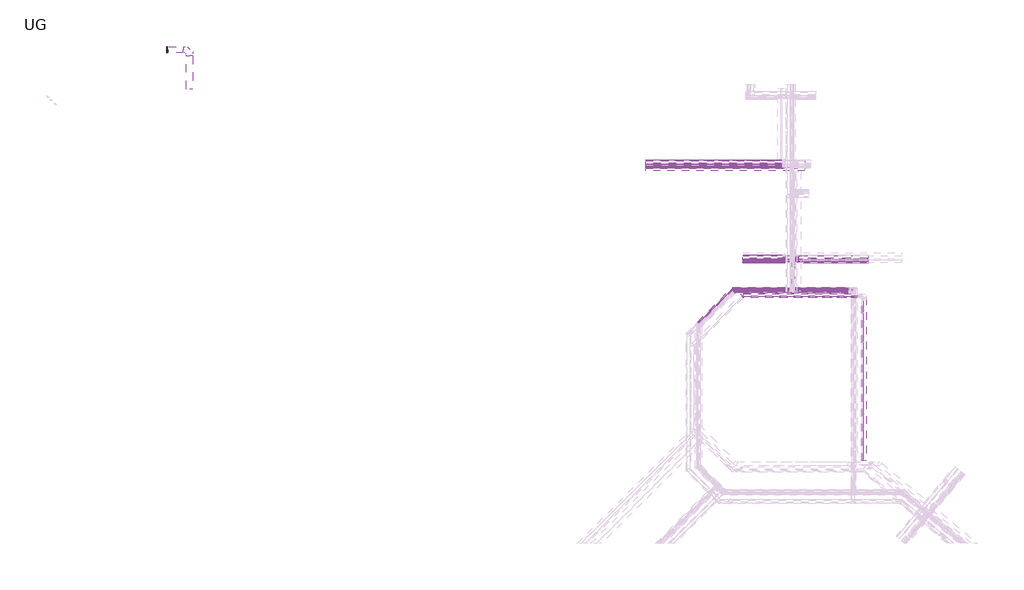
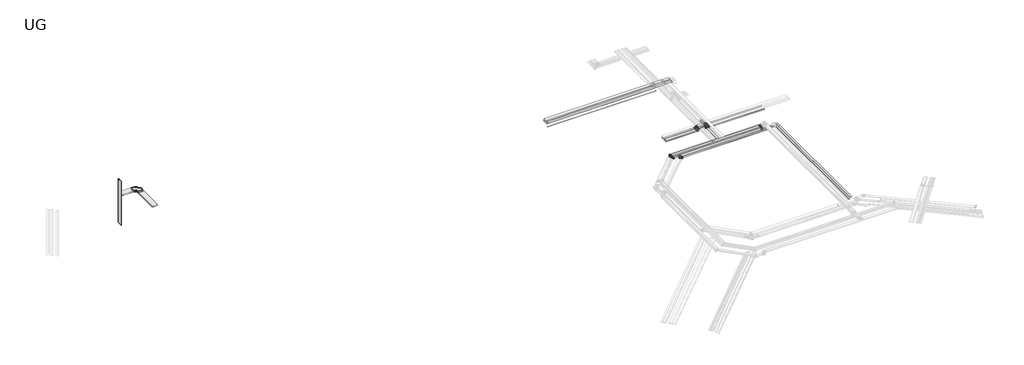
# One storey, part 4 of 14: 66 cable carrier segments, 42 cable carrier fittings.
"""IFC4 building model written with IfcOpenShell, lengths in millimetres."""

from ifc_helpers import new_model, si_unit, frame, origin, place, context, project, spatial, polyline, outline, extrude, transform, mapped, element, save
from components import cable_tray_horizontal_bend_a37de1d9, cable_tray_horizontal_bend_59db2054, cable_tray_horizontal_bend_460281a5, cable_tray_horizontal_bend_41a28480, cable_tray_horizontal_bend_607c76ad, cable_tray_horizontal_bend_b3b03265, cable_tray_horizontal_bend_0aeb7664, cable_tray_vertical_inside_bend_327bc21f, cable_tray_vertical_inside_bend_96cfe16a, cable_tray_vertical_inside_bend_7e2063ad, cable_tray_vertical_outside_bend_a3d3d836, cable_tray_vertical_outside_bend_dc64f624, cable_tray_vertical_outside_bend_fceaed45, cable_tray_vertical_outside_bend_b6a104fe

model = new_model("IFC4")

# Units and contexts
model_context = context("Model", 3, world=origin())
ifc_project = project(units=[si_unit("LENGTHUNIT", "METRE", prefix="MILLI")], contexts=[model_context])

# Site, building, storey
site = spatial("IfcSite", under=ifc_project)
building = spatial("IfcBuilding", under=site)
storey = spatial("IfcBuildingStorey", under=building, Name="UG", Elevation=7925.0)

# Cable carrier fittings
placement = place(None, origin())
cable_tray_horizontal_bend_shape = cable_tray_horizontal_bend_a37de1d9(model_context)
element("IfcCableCarrierFitting", 1, ObjectType="Cable Tray Horizontal Bend : ELEC_ELV_TKG_N2402", at=placement, inside=storey, context=model_context, shape_type="MappedRepresentation", body=[
    mapped(cable_tray_horizontal_bend_shape, transform((93310.9290027, 66340.1193644, 12725.0), x_axis=(-1.0, 0.0, 0.0), y_axis=(0.0, -1.0, 0.0), z_axis=(0.0, 0.0, 1.0))),
])
element("IfcCableCarrierFitting", 2, ObjectType="Cable Tray Horizontal Bend : ELEC_ELV_TKG_N2402", at=placement, inside=storey, context=model_context, shape_type="MappedRepresentation", body=[
    mapped(cable_tray_horizontal_bend_shape, transform((93248.7969637, 66490.1193598, 12449.9999995), x_axis=(-1.0, 0.0, 0.0), y_axis=(0.0, -1.0, 0.0), z_axis=(0.0, 0.0, 1.0))),
])
element("IfcCableCarrierFitting", 3, ObjectType="Cable Tray Horizontal Bend : ELEC_ELV_TKG_N2402", at=placement, inside=storey, context=model_context, shape_type="MappedRepresentation", body=[
    mapped(cable_tray_horizontal_bend_shape, transform((93124.5328949, 66790.1193598, 12449.9999995), x_axis=(-1.0, 0.0, 0.0), y_axis=(0.0, -1.0, 0.0), z_axis=(0.0, 0.0, 1.0))),
])
element("IfcCableCarrierFitting", 4, ObjectType="Cable Tray Horizontal Bend : ELEC_ELV_TKG_N2402", at=placement, inside=storey, context=model_context, shape_type="MappedRepresentation", body=[
    mapped(cable_tray_horizontal_bend_shape, transform((93186.6649293, 66640.1193598, 12449.9999995), x_axis=(-1.0, 0.0, 0.0), y_axis=(0.0, -1.0, 0.0), z_axis=(0.0, 0.0, 1.0))),
])
cable_tray_horizontal_bend_2_shape = cable_tray_horizontal_bend_59db2054(model_context)
element("IfcCableCarrierFitting", 5, ObjectType="Cable Tray Horizontal Bend : ELEC_ELV_TKG_N2402", at=placement, inside=storey, context=model_context, shape_type="MappedRepresentation", body=[
    mapped(cable_tray_horizontal_bend_2_shape, transform((93052.0455216, 66965.1193598, 12750.0), x_axis=(-1.0, 0.0, 0.0), y_axis=(0.0, -1.0, 0.0), z_axis=(0.0, 0.0, 1.0))),
])
element("IfcCableCarrierFitting", 6, ObjectType="Cable Tray Horizontal Bend : ELEC_ELV_TKG_N2402", at=placement, inside=storey, context=model_context, shape_type="MappedRepresentation", body=[
    mapped(cable_tray_horizontal_bend_2_shape, transform((93321.2843371, 66315.1193598, 12474.9999995), x_axis=(-1.0, 0.0, 0.0), y_axis=(0.0, -1.0, 0.0), z_axis=(0.0, 0.0, 1.0))),
])
element("IfcCableCarrierFitting", 7, ObjectType="Cable Tray Horizontal Bend : ELEC_ELV_TKG_N2402", at=placement, inside=storey, context=model_context, shape_type="MappedRepresentation", body=[
    mapped(cable_tray_horizontal_bend_2_shape, transform((93404.1270495, 66115.1193598, 12474.9999995), x_axis=(-1.0, 0.0, 0.0), y_axis=(0.0, -1.0, 0.0), z_axis=(0.0, 0.0, 1.0))),
])
cable_tray_horizontal_bend_3_shape = cable_tray_horizontal_bend_460281a5(model_context)
element("IfcCableCarrierFitting", 8, ObjectType="Cable Tray Horizontal Bend : ELEC_ELV_TKG_N2402", at=placement, inside=storey, context=model_context, shape_type="MappedRepresentation", body=[
    mapped(cable_tray_horizontal_bend_3_shape, transform((93186.664934, 66640.1193644, 12750.0), x_axis=(-1.0, 0.0, 0.0), y_axis=(0.0, -1.0, 0.0), z_axis=(0.0, 0.0, 1.0))),
])
cable_tray_horizontal_bend_4_shape = cable_tray_horizontal_bend_41a28480(model_context)
element("IfcCableCarrierFitting", 9, ObjectType="Cable Tray Horizontal Bend : ELEC_SUB_CT_N2402", at=placement, inside=storey, context=model_context, shape_type="MappedRepresentation", body=[
    mapped(cable_tray_horizontal_bend_4_shape, transform((94599.4066261, 65790.1193568, 12700.0), x_axis=(-1.0, 0.0, 0.0), y_axis=(0.0, -1.0, 0.0), z_axis=(0.0, 0.0, 1.0))),
])
element("IfcCableCarrierFitting", 10, ObjectType="Cable Tray Horizontal Bend : ELEC_SUB_CT_N2402", at=placement, inside=storey, context=model_context, shape_type="MappedRepresentation", body=[
    mapped(cable_tray_horizontal_bend_4_shape, transform((94599.4066261, 65790.1193568, 12424.9999997), x_axis=(-1.0, 0.0, 0.0), y_axis=(0.0, -1.0, 0.0), z_axis=(0.0, 0.0, 1.0))),
])
cable_tray_horizontal_bend_5_shape = cable_tray_horizontal_bend_607c76ad(model_context)
element("IfcCableCarrierFitting", 11, ObjectType="Cable Tray Horizontal Bend : ELEC_SUB_CT_N2402", at=placement, inside=storey, context=model_context, shape_type="MappedRepresentation", body=[
    mapped(cable_tray_horizontal_bend_5_shape, transform((94744.3813729, 65440.1193568, 12700.0), x_axis=(-1.0, 0.0, 0.0), y_axis=(0.0, -1.0, 0.0), z_axis=(0.0, 0.0, 1.0))),
])
element("IfcCableCarrierFitting", 12, ObjectType="Cable Tray Horizontal Bend : ELEC_SUB_CT_N2402", at=placement, inside=storey, context=model_context, shape_type="MappedRepresentation", body=[
    mapped(cable_tray_horizontal_bend_5_shape, transform((94744.3813729, 65440.1193568, 12425.0), x_axis=(-1.0, 0.0, 0.0), y_axis=(0.0, -1.0, 0.0), z_axis=(0.0, 0.0, 1.0))),
])
cable_tray_horizontal_bend_6_shape = cable_tray_horizontal_bend_b3b03265(model_context)
element("IfcCableCarrierFitting", 13, ObjectType="Cable Tray Horizontal Bend : ELEC_MAIN_CT_N2402", at=placement, inside=storey, context=model_context, shape_type="MappedRepresentation", body=[
    mapped(cable_tray_horizontal_bend_6_shape, transform((4750.0, 105660.637899, 13000.0), x_axis=(0.0, 1.0, 0.0), y_axis=(-1.0, 0.0, 0.0), z_axis=(0.0, 0.0, 1.0))),
])
element("IfcCableCarrierFitting", 14, ObjectType="Cable Tray Horizontal Bend : ELEC_MAIN_CT_N2402", at=placement, inside=storey, context=model_context, shape_type="MappedRepresentation", body=[
    mapped(cable_tray_horizontal_bend_6_shape, transform((4750.0, 105660.637899, 12750.0), x_axis=(0.0, 1.0, 0.0), y_axis=(-1.0, 0.0, 0.0), z_axis=(0.0, 0.0, 1.0))),
])
cable_tray_horizontal_bend_7_shape = cable_tray_horizontal_bend_0aeb7664(model_context)
element("IfcCableCarrierFitting", 15, ObjectType="Cable Tray Horizontal Bend : ELEC_ELV_CT_N2402", at=placement, inside=storey, context=model_context, shape_type="MappedRepresentation", body=[
    mapped(cable_tray_horizontal_bend_7_shape, transform((93052.0455215, 66965.1193598, 12424.9999995), x_axis=(-1.0, 0.0, 0.0), y_axis=(0.0, -1.0, 0.0), z_axis=(0.0, 0.0, 1.0))),
])
cable_tray_vertical_inside_bend_shape = cable_tray_vertical_inside_bend_327bc21f(model_context)
element("IfcCableCarrierFitting", 16, ObjectType="Cable Tray Vertical Inside Bend : ELEC_SUB_CT_N2402", at=placement, inside=storey, context=model_context, shape_type="MappedRepresentation", body=[
    mapped(cable_tray_vertical_inside_bend_shape, transform((102874.6931236, 70728.5898391, 13075.0000003), x_axis=(0.0, 1.0, 0.0), y_axis=(0.0, 0.0, 1.0), z_axis=(1.0, 0.0, 0.0))),
])
element("IfcCableCarrierFitting", 17, ObjectType="Cable Tray Vertical Inside Bend : ELEC_SUB_CT_N2402", at=placement, inside=storey, context=model_context, shape_type="MappedRepresentation", body=[
    mapped(cable_tray_vertical_inside_bend_shape, transform((102874.6931236, 70503.589839, 13300.0000003), x_axis=(0.0, 1.0, 0.0), y_axis=(0.0, 0.0, 1.0), z_axis=(1.0, 0.0, 0.0))),
])
cable_tray_vertical_inside_bend_2_shape = cable_tray_vertical_inside_bend_96cfe16a(model_context)
element("IfcCableCarrierFitting", 18, ObjectType="Cable Tray Vertical Inside Bend : ELEC_ELV_TKG_N2402", at=placement, inside=storey, context=model_context, shape_type="MappedRepresentation", body=[
    mapped(cable_tray_vertical_inside_bend_2_shape, transform((111710.9178414, 66640.1193644, 12750.0), x_axis=(-0.7071067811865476, 0.0, -0.7071067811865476), y_axis=(-0.7071067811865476, 0.0, 0.7071067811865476), z_axis=(0.0, 1.0, 0.0))),
])
cable_tray_vertical_inside_bend_3_shape = cable_tray_vertical_inside_bend_7e2063ad(model_context)
element("IfcCableCarrierFitting", 19, ObjectType="Cable Tray Vertical Inside Bend : ELEC_ELV_TKG_N2402", at=placement, inside=storey, context=model_context, shape_type="MappedRepresentation", body=[
    mapped(cable_tray_vertical_inside_bend_3_shape, transform((111901.6032705, 66315.1193598, 12474.9999995), x_axis=(-0.7071067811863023, 0.0, -0.7071067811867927), y_axis=(-0.7071067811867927, 0.0, 0.7071067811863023), z_axis=(0.0, 1.0, 0.0))),
])
element("IfcCableCarrierFitting", 20, ObjectType="Cable Tray Vertical Inside Bend : ELEC_ELV_TKG_N2402", at=placement, inside=storey, context=model_context, shape_type="MappedRepresentation", body=[
    mapped(cable_tray_vertical_inside_bend_3_shape, transform((111701.6032705, 66115.1193598, 12474.9999995), x_axis=(-0.7071067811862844, 0.0, -0.7071067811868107), y_axis=(-0.7071067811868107, 0.0, 0.7071067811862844), z_axis=(0.0, 1.0, 0.0))),
])
cable_tray_vertical_outside_bend_shape = cable_tray_vertical_outside_bend_a3d3d836(model_context)
element("IfcCableCarrierFitting", 21, ObjectType="Cable Tray Vertical Outside Bend : ELEC_ELV_TKG_N2402", at=placement, inside=storey, context=model_context, shape_type="MappedRepresentation", body=[
    mapped(cable_tray_vertical_outside_bend_shape, transform((103684.3144981, 71950.0, 12725.0), x_axis=(-1.0, 0.0, 0.0), y_axis=(0.0, 0.0, 1.0), z_axis=(0.0, 1.0, 0.0))),
])
element("IfcCableCarrierFitting", 22, ObjectType="Cable Tray Vertical Outside Bend : ELEC_ELV_TKG_N2402", at=placement, inside=storey, context=model_context, shape_type="MappedRepresentation", body=[
    mapped(cable_tray_vertical_outside_bend_shape, transform((101259.3144979, 71950.0, 12724.9999997), x_axis=(1.0, 0.0, 0.0), y_axis=(0.0, 0.0, 1.0), z_axis=(0.0, -1.0, 0.0))),
])
element("IfcCableCarrierFitting", 23, ObjectType="Cable Tray Vertical Outside Bend : ELEC_ELV_TKG_N2402", at=placement, inside=storey, context=model_context, shape_type="MappedRepresentation", body=[
    mapped(cable_tray_vertical_outside_bend_shape, transform((103384.3144981, 71950.0, 13025.0), x_axis=(-0.7071067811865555, 0.0, 0.7071067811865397), y_axis=(-0.7071067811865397, 0.0, -0.7071067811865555), z_axis=(0.0, -1.0, 0.0))),
])
element("IfcCableCarrierFitting", 24, ObjectType="Cable Tray Vertical Outside Bend : ELEC_ELV_TKG_N2402", at=placement, inside=storey, context=model_context, shape_type="MappedRepresentation", body=[
    mapped(cable_tray_vertical_outside_bend_shape, transform((101559.3144981, 71950.0, 13025.0), x_axis=(0.707106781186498, 0.0, 0.7071067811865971), y_axis=(0.7071067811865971, 0.0, -0.707106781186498), z_axis=(0.0, 1.0, 0.0))),
])
cable_tray_vertical_outside_bend_2_shape = cable_tray_vertical_outside_bend_dc64f624(model_context)
element("IfcCableCarrierFitting", 25, ObjectType="Cable Tray Vertical Outside Bend : ELEC_SUB_CT_N2402", at=placement, inside=storey, context=model_context, shape_type="MappedRepresentation", body=[
    mapped(cable_tray_vertical_outside_bend_2_shape, transform((102874.6931236, 71075.0, 13275.0), x_axis=(0.0, -1.0, 0.0), y_axis=(0.0, 0.0, -1.0), z_axis=(1.0, 0.0, 0.0))),
])
element("IfcCableCarrierFitting", 26, ObjectType="Cable Tray Vertical Outside Bend : ELEC_SUB_CT_N2402", at=placement, inside=storey, context=model_context, shape_type="MappedRepresentation", body=[
    mapped(cable_tray_vertical_outside_bend_2_shape, transform((102874.6931236, 70850.0, 13500.0), x_axis=(0.0, -1.0, 0.0), y_axis=(0.0, 0.0, -1.0), z_axis=(1.0, 0.0, 0.0))),
])
cable_tray_vertical_outside_bend_3_shape = cable_tray_vertical_outside_bend_fceaed45(model_context)
element("IfcCableCarrierFitting", 27, ObjectType="Cable Tray Vertical Outside Bend : ELEC_ELV_TKG_N2402", at=placement, inside=storey, context=model_context, shape_type="MappedRepresentation", body=[
    mapped(cable_tray_vertical_outside_bend_3_shape, transform((103684.3144981, 71650.0, 12700.0), x_axis=(-1.0, 0.0, 0.0), y_axis=(0.0, 0.0, 1.0), z_axis=(0.0, 1.0, 0.0))),
])
element("IfcCableCarrierFitting", 28, ObjectType="Cable Tray Vertical Outside Bend : ELEC_ELV_TKG_N2402", at=placement, inside=storey, context=model_context, shape_type="MappedRepresentation", body=[
    mapped(cable_tray_vertical_outside_bend_3_shape, transform((101234.3144981, 71650.0, 12699.9999997), x_axis=(1.0, 0.0, 0.0), y_axis=(0.0, 0.0, 1.0), z_axis=(0.0, -1.0, 0.0))),
])
element("IfcCableCarrierFitting", 29, ObjectType="Cable Tray Vertical Outside Bend : ELEC_ELV_TKG_N2402", at=placement, inside=storey, context=model_context, shape_type="MappedRepresentation", body=[
    mapped(cable_tray_vertical_outside_bend_3_shape, transform((101534.3144984, 71650.0, 13000.0), x_axis=(0.7071067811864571, 0.0, 0.7071067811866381), y_axis=(0.7071067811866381, 0.0, -0.7071067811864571), z_axis=(0.0, 1.0, 0.0))),
])
element("IfcCableCarrierFitting", 30, ObjectType="Cable Tray Vertical Outside Bend : ELEC_ELV_TKG_N2402", at=placement, inside=storey, context=model_context, shape_type="MappedRepresentation", body=[
    mapped(cable_tray_vertical_outside_bend_3_shape, transform((103384.3144981, 71650.0, 13000.0), x_axis=(-0.7071067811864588, 0.0, 0.7071067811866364), y_axis=(-0.7071067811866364, 0.0, -0.7071067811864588), z_axis=(0.0, -1.0, 0.0))),
])
element("IfcCableCarrierFitting", 31, ObjectType="Cable Tray Vertical Outside Bend : ELEC_ELV_TKG_N2402", at=placement, inside=storey, context=model_context, shape_type="MappedRepresentation", body=[
    mapped(cable_tray_vertical_outside_bend_3_shape, transform((103684.3144981, 71300.0, 12700.0), x_axis=(-1.0, 0.0, 0.0), y_axis=(0.0, 0.0, 1.0), z_axis=(0.0, 1.0, 0.0))),
])
element("IfcCableCarrierFitting", 32, ObjectType="Cable Tray Vertical Outside Bend : ELEC_ELV_TKG_N2402", at=placement, inside=storey, context=model_context, shape_type="MappedRepresentation", body=[
    mapped(cable_tray_vertical_outside_bend_3_shape, transform((101234.3144981, 71300.0, 12699.9999997), x_axis=(1.0, 0.0, 0.0), y_axis=(0.0, 0.0, 1.0), z_axis=(0.0, -1.0, 0.0))),
])
element("IfcCableCarrierFitting", 33, ObjectType="Cable Tray Vertical Outside Bend : ELEC_ELV_TKG_N2402", at=placement, inside=storey, context=model_context, shape_type="MappedRepresentation", body=[
    mapped(cable_tray_vertical_outside_bend_3_shape, transform((103384.3144984, 71300.0, 12999.9999997), x_axis=(-0.707106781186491, 0.0, 0.7071067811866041), y_axis=(-0.7071067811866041, 0.0, -0.707106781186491), z_axis=(0.0, -1.0, 0.0))),
])
element("IfcCableCarrierFitting", 34, ObjectType="Cable Tray Vertical Outside Bend : ELEC_ELV_TKG_N2402", at=placement, inside=storey, context=model_context, shape_type="MappedRepresentation", body=[
    mapped(cable_tray_vertical_outside_bend_3_shape, transform((101534.3144981, 71300.0, 12999.9999997), x_axis=(0.7071067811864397, 0.0, 0.7071067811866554), y_axis=(0.7071067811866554, 0.0, -0.7071067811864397), z_axis=(0.0, 1.0, 0.0))),
])
element("IfcCableCarrierFitting", 35, ObjectType="Cable Tray Vertical Outside Bend : ELEC_ELV_TKG_N2402", at=placement, inside=storey, context=model_context, shape_type="MappedRepresentation", body=[
    mapped(cable_tray_vertical_outside_bend_3_shape, transform((103384.3144984, 71150.0, 12999.9999997), x_axis=(-0.707106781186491, 0.0, 0.7071067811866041), y_axis=(-0.7071067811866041, 0.0, -0.707106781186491), z_axis=(0.0, -1.0, 0.0))),
])
element("IfcCableCarrierFitting", 36, ObjectType="Cable Tray Vertical Outside Bend : ELEC_ELV_TKG_N2402", at=placement, inside=storey, context=model_context, shape_type="MappedRepresentation", body=[
    mapped(cable_tray_vertical_outside_bend_3_shape, transform((101534.3144981, 71150.0, 12999.9999997), x_axis=(0.7071067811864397, 0.0, 0.7071067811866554), y_axis=(0.7071067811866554, 0.0, -0.7071067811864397), z_axis=(0.0, 1.0, 0.0))),
])
element("IfcCableCarrierFitting", 37, ObjectType="Cable Tray Vertical Outside Bend : ELEC_ELV_TKG_N2402", at=placement, inside=storey, context=model_context, shape_type="MappedRepresentation", body=[
    mapped(cable_tray_vertical_outside_bend_3_shape, transform((101234.3144981, 71150.0, 12699.9999997), x_axis=(-0.7071067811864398, 0.0, -0.7071067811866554), y_axis=(-0.7071067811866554, 0.0, 0.7071067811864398), z_axis=(0.0, 1.0, 0.0))),
])
element("IfcCableCarrierFitting", 38, ObjectType="Cable Tray Vertical Outside Bend : ELEC_ELV_TKG_N2402", at=placement, inside=storey, context=model_context, shape_type="MappedRepresentation", body=[
    mapped(cable_tray_vertical_outside_bend_3_shape, transform((103684.3144981, 71150.0, 12700.0), x_axis=(0.7071067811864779, 0.0, -0.7071067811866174), y_axis=(0.7071067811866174, 0.0, 0.7071067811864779), z_axis=(0.0, -1.0, 0.0))),
])
cable_tray_vertical_outside_bend_4_shape = cable_tray_vertical_outside_bend_b6a104fe(model_context)
element("IfcCableCarrierFitting", 39, ObjectType="Cable Tray Vertical Outside Bend : ELEC_ELV_TKG_N2402", at=placement, inside=storey, context=model_context, shape_type="MappedRepresentation", body=[
    mapped(cable_tray_vertical_outside_bend_4_shape, transform((103684.3144981, 71475.0, 12725.0), x_axis=(-1.0, 0.0, 0.0), y_axis=(0.0, 0.0, 1.0), z_axis=(0.0, 1.0, 0.0))),
])
element("IfcCableCarrierFitting", 40, ObjectType="Cable Tray Vertical Outside Bend : ELEC_ELV_TKG_N2402", at=placement, inside=storey, context=model_context, shape_type="MappedRepresentation", body=[
    mapped(cable_tray_vertical_outside_bend_4_shape, transform((101234.3144981, 71475.0, 12724.9999997), x_axis=(1.0, 0.0, 0.0), y_axis=(0.0, 0.0, 1.0), z_axis=(0.0, -1.0, 0.0))),
])
element("IfcCableCarrierFitting", 41, ObjectType="Cable Tray Vertical Outside Bend : ELEC_ELV_TKG_N2402", at=placement, inside=storey, context=model_context, shape_type="MappedRepresentation", body=[
    mapped(cable_tray_vertical_outside_bend_4_shape, transform((101534.3144984, 71475.0, 13025.0), x_axis=(0.7071067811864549, 0.0, 0.7071067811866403), y_axis=(0.7071067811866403, 0.0, -0.7071067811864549), z_axis=(0.0, 1.0, 0.0))),
])
element("IfcCableCarrierFitting", 42, ObjectType="Cable Tray Vertical Outside Bend : ELEC_ELV_TKG_N2402", at=placement, inside=storey, context=model_context, shape_type="MappedRepresentation", body=[
    mapped(cable_tray_vertical_outside_bend_4_shape, transform((103384.3144981, 71475.0, 13025.0), x_axis=(-0.7071067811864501, 0.0, 0.707106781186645), y_axis=(-0.707106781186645, 0.0, -0.7071067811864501), z_axis=(0.0, -1.0, 0.0))),
])

# Cable carrier segments
element("IfcCableCarrierSegment", 43, ObjectType="ELEC_ELV_TKG_N2402", at=placement, inside=storey, context=model_context, shape_type="SweptSolid", body=[
    extrude(outline(polyline([(101197.1824638, 72350.0), (101197.1824638, 72200.0), (94685.7909828, 72200.0), (94685.7909828, 72350.0), (101197.1824638, 72350.0)])), frame((0.0, 0.0, 12650.0), z_axis=(0.0, 0.0, 1.0), x_axis=(1.0, 0.0, 0.0)), (0.0, 0.0, 1.0), 150.0),
])
element("IfcCableCarrierSegment", 44, ObjectType="ELEC_ELV_TKG_N2402", at=placement, inside=storey, context=model_context, shape_type="SweptSolid", body=[
    extrude(outline(polyline([(101534.3144981, 72150.0), (101534.3144981, 71750.0), (94685.7909828, 71750.0), (94685.7909828, 72150.0), (101534.3144981, 72150.0)])), frame((0.0, 0.0, 12649.9999997), z_axis=(0.0, 0.0, 1.0), x_axis=(1.0, 0.0, 0.0)), (0.0, 0.0, 1.0), 150.0),
])
element("IfcCableCarrierSegment", 45, ObjectType="ELEC_ELV_TKG_N2402", at=placement, inside=storey, context=model_context, shape_type="SweptSolid", body=[
    extrude(outline(polyline([(101172.1824638, 71550.0), (101172.1824638, 71400.0), (94685.7909828, 71400.0), (94685.7909828, 71550.0), (101172.1824638, 71550.0)])), frame((0.0, 0.0, 12649.9999997), z_axis=(0.0, 0.0, 1.0), x_axis=(1.0, 0.0, 0.0)), (0.0, 0.0, 1.0), 150.0),
])
element("IfcCableCarrierSegment", 46, ObjectType="ELEC_ELV_CT_N2402", at=placement, inside=storey, context=model_context, shape_type="SweptSolid", body=[
    extrude(outline(polyline([(104525.0713304, 70900.0), (104525.0713304, 71050.0), (115107.2849174, 71050.0), (115107.2849174, 70900.0), (104525.0713304, 70900.0)])), frame((0.0, 0.0, 12650.0), z_axis=(0.0, 0.0, 1.0), x_axis=(1.0, 0.0, 0.0)), (0.0, 0.0, 1.0), 50.0),
])
element("IfcCableCarrierSegment", 47, ObjectType="ELEC_ELV_TKG_N2402", at=placement, inside=storey, context=model_context, shape_type="SweptSolid", body=[
    extrude(outline(polyline([(101172.1824638, 87796.9602128), (101172.1824638, 87646.9602128), (78913.9486001, 87646.9602128), (78913.9486001, 87796.9602128), (101172.1824638, 87796.9602128)])), frame((0.0, 0.0, 12650.0), z_axis=(0.0, 0.0, 1.0), x_axis=(1.0, 0.0, 0.0)), (0.0, 0.0, 1.0), 150.0),
])
element("IfcCableCarrierSegment", 48, ObjectType="ELEC_ELV_TKG_N2402", at=placement, inside=storey, context=model_context, shape_type="SweptSolid", body=[
    extrude(outline(polyline([(101120.4057685, 87596.9602128), (101120.4057685, 87196.9602128), (78913.9486001, 87196.9602128), (78913.9486001, 87596.9602128), (101120.4057685, 87596.9602128)])), frame((0.0, 0.0, 12650.0), z_axis=(0.0, 0.0, 1.0), x_axis=(1.0, 0.0, 0.0)), (0.0, 0.0, 1.0), 150.0),
])
element("IfcCableCarrierSegment", 49, ObjectType="ELEC_ELV_TKG_N2402", at=placement, inside=storey, context=model_context, shape_type="SweptSolid", body=[
    extrude(outline(polyline([(101172.1824638, 86996.9602128), (101172.1824638, 86846.9602128), (78913.9486001, 86846.9602128), (78913.9486001, 86996.9602128), (101172.1824638, 86996.9602128)])), frame((0.0, 0.0, 12650.0), z_axis=(0.0, 0.0, 1.0), x_axis=(1.0, 0.0, 0.0)), (0.0, 0.0, 1.0), 150.0),
])
element("IfcCableCarrierSegment", 50, ObjectType="ELEC_ELV_TKG_N2402", at=placement, inside=storey, context=model_context, shape_type="SweptSolid", body=[
    extrude(outline(polyline([(101151.4717857, 86646.9602128), (101151.4717857, 86546.9602128), (78913.9486001, 86546.9602128), (78913.9486001, 86646.9602128), (101151.4717857, 86646.9602128)])), frame((0.0, 0.0, 12650.0), z_axis=(0.0, 0.0, 1.0), x_axis=(1.0, 0.0, 0.0)), (0.0, 0.0, 1.0), 100.0),
])
element("IfcCableCarrierSegment", 51, ObjectType="ELEC_ELV_TKG_N2402", at=placement, inside=storey, context=model_context, shape_type="SweptSolid", body=[
    extrude(outline(polyline([(78913.9486001, 87046.9602128), (78913.9486001, 87146.9602128), (101192.8931419, 87146.9602128), (101192.8931419, 87046.9602128), (78913.9486001, 87046.9602128)])), frame((0.0, 0.0, 12650.0), z_axis=(0.0, 0.0, 1.0), x_axis=(1.0, 0.0, 0.0)), (0.0, 0.0, 1.0), 100.0),
])
element("IfcCableCarrierSegment", 52, ObjectType="ELEC_ELV_TKG_N2402", at=placement, inside=storey, context=model_context, shape_type="SweptSolid", body=[
    extrude(outline(polyline([(78913.9486001, 86696.9602128), (78913.9486001, 86796.9602128), (101192.8931419, 86796.9602128), (101192.8931419, 86696.9602128), (78913.9486001, 86696.9602128)])), frame((0.0, 0.0, 12650.0), z_axis=(0.0, 0.0, 1.0), x_axis=(1.0, 0.0, 0.0)), (0.0, 0.0, 1.0), 100.0),
])
element("IfcCableCarrierSegment", 53, ObjectType="ELEC_ELV_CT_N2402", at=placement, inside=storey, context=model_context, shape_type="SweptSolid", body=[
    extrude(outline(polyline([(78913.9486001, 86346.9602128), (78913.9486001, 86496.9602128), (101534.3144981, 86496.9602128), (101534.3144981, 86346.9602128), (78913.9486001, 86346.9602128)])), frame((0.0, 0.0, 12075.0), z_axis=(0.0, 0.0, 1.0), x_axis=(1.0, 0.0, 0.0)), (0.0, 0.0, 1.0), 50.0),
])
element("IfcCableCarrierSegment", 54, ObjectType="ELEC_ELV_TKG_N2402", at=placement, inside=storey, context=model_context, shape_type="SweptSolid", body=[
    extrude(outline(polyline([(112239.4712399, 67040.1193598), (112239.4712399, 66890.1193598), (93114.177556, 66890.1193598), (93114.177556, 67040.1193598), (112239.4712399, 67040.1193598)])), frame((0.0, 0.0, 12675.0), z_axis=(0.0, 0.0, 1.0), x_axis=(1.0, 0.0, 0.0)), (0.0, 0.0, 1.0), 150.0),
])
element("IfcCableCarrierSegment", 55, ObjectType="ELEC_ELV_TKG_N2402", at=placement, inside=storey, context=model_context, shape_type="SweptSolid", body=[
    extrude(outline(polyline([(111597.0091117, 66840.1193644), (111597.0091117, 66440.1193644), (93352.350359, 66440.1193644), (93352.350359, 66840.1193644), (111597.0091117, 66840.1193644)])), frame((0.0, 0.0, 12675.0), z_axis=(0.0, 0.0, 1.0), x_axis=(1.0, 0.0, 0.0)), (0.0, 0.0, 1.0), 150.0),
])
element("IfcCableCarrierSegment", 56, ObjectType="ELEC_ELV_TKG_N2402", at=placement, inside=storey, context=model_context, shape_type="SweptSolid", body=[
    extrude(outline(polyline([(112222.3232791, 66390.1193644), (112222.3232791, 66290.1193644), (93352.3503589, 66290.1193644), (93352.3503589, 66390.1193644), (112222.3232791, 66390.1193644)])), frame((0.0, 0.0, 12675.0), z_axis=(0.0, 0.0, 1.0), x_axis=(1.0, 0.0, 0.0)), (0.0, 0.0, 1.0), 100.0),
])
element("IfcCableCarrierSegment", 57, ObjectType="ELEC_SUB_CT_N2402", at=placement, inside=storey, context=model_context, shape_type="SweptSolid", body=[
    extrude(outline(polyline([(0.0, -400.0), (0.0, 0.0), (18752.627739, 0.0), (18752.627739, -400.0), (0.0, -400.0)])), frame((94765.092051, 65990.1193568, 12675.0), z_axis=(-1.63268861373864e-11, 0.0, 1.0), x_axis=(1.0, 0.0, 1.63268861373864e-11)), (0.0, 0.0, 1.0), 50.0),
])
element("IfcCableCarrierSegment", 58, ObjectType="ELEC_SUB_CT_N2402", at=placement, inside=storey, context=model_context, shape_type="SweptSolid", body=[
    extrude(outline(polyline([(0.0, -200.0), (0.0, 0.0), (19145.0991936, 0.0), (19145.0991936, -200.0), (0.0, -200.0)])), frame((94827.2240854, 65540.1193568, 12675.0), z_axis=(-1.5993205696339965e-11, 0.0, 1.0), x_axis=(1.0, 0.0, 1.5993205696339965e-11)), (0.0, 0.0, 1.0), 50.0),
])
element("IfcCableCarrierSegment", 59, ObjectType="ELEC_SUB_CT_N2402", at=placement, inside=storey, context=model_context, shape_type="SweptSolid", body=[
    extrude(outline(polyline([(0.0, -400.0), (0.0, 0.0), (26540.1193563, 0.0), (26540.1193563, -400.0), (0.0, -400.0)])), frame((114722.323279, 65390.1193568, 12974.9999998), z_axis=(0.0, -5.7686283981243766e-12, 1.0), x_axis=(0.0, -1.0, -5.7686283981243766e-12)), (0.0, 0.0, 1.0), 50.0),
])
element("IfcCableCarrierSegment", 60, ObjectType="ELEC_SUB_CT_N2402", at=placement, inside=storey, context=model_context, shape_type="SweptSolid", body=[
    extrude(outline(polyline([(102674.6931236, 70443.3012707), (103074.6931236, 70443.3012707), (103074.6931236, 66365.4975666), (102674.6931236, 66365.4975666), (102674.6931236, 70443.3012707)])), frame((0.0, 0.0, 13275.0000003), z_axis=(0.0, 0.0, 1.0), x_axis=(1.0, 0.0, 0.0)), (0.0, 0.0, 1.0), 50.0),
])
element("IfcCableCarrierSegment", 61, ObjectType="ELEC_SUB_CT_N2402", at=placement, inside=storey, context=model_context, shape_type="SweptSolid", body=[
    extrude(outline(polyline([(78913.9486001, 85992.7601035), (78913.9486001, 86392.7601035), (104751.029821, 86392.7601035), (104751.029821, 85992.7601035), (78913.9486001, 85992.7601035)])), frame((0.0, 0.0, 13075.0), z_axis=(0.0, 0.0, 1.0), x_axis=(1.0, 0.0, 0.0)), (0.0, 0.0, 1.0), 50.0),
])
element("IfcCableCarrierSegment", 62, ObjectType="ELEC_SUB_CT_N2402", at=placement, inside=storey, context=model_context, shape_type="SweptSolid", body=[
    extrude(outline(polyline([(78913.9486001, 86442.7601035), (78913.9486001, 86642.7601035), (104751.029821, 86642.7601035), (104751.029821, 86442.7601035), (78913.9486001, 86442.7601035)])), frame((0.0, 0.0, 13075.0), z_axis=(0.0, 0.0, 1.0), x_axis=(1.0, 0.0, 0.0)), (0.0, 0.0, 1.0), 50.0),
])
element("IfcCableCarrierSegment", 63, ObjectType="ELEC_SUB_CT_N2402", at=placement, inside=storey, context=model_context, shape_type="SweptSolid", body=[
    extrude(outline(polyline([(78913.9486001, 87043.1383103), (78913.9486001, 87643.1383103), (104751.029821, 87643.1383103), (104751.029821, 87043.1383103), (78913.9486001, 87043.1383103)])), frame((0.0, 0.0, 13075.0), z_axis=(0.0, 0.0, 1.0), x_axis=(1.0, 0.0, 0.0)), (0.0, 0.0, 1.0), 50.0),
])
element("IfcCableCarrierSegment", 64, ObjectType="ELEC_MAIN_CT_N2402", at=placement, inside=storey, context=model_context, shape_type="SweptSolid", body=[
    extrude(outline(polyline([(3750.0, 106160.637899), (3750.0, 105160.637899), (1341.5112168, 105160.637899), (1341.5112168, 106160.637899), (3750.0, 106160.637899)])), frame((0.0, 0.0, 12975.0), z_axis=(0.0, 0.0, 1.0), x_axis=(1.0, 0.0, 0.0)), (0.0, 0.0, 1.0), 50.0),
])
element("IfcCableCarrierSegment", 65, ObjectType="ELEC_MAIN_CT_N2402", at=placement, inside=storey, context=model_context, shape_type="SweptSolid", body=[
    extrude(outline(polyline([(5250.0, 99250.0), (4250.0, 99250.0), (4250.0, 104660.637899), (5250.0, 104660.637899), (5250.0, 99250.0)])), frame((0.0, 0.0, 12975.0), z_axis=(0.0, 0.0, 1.0), x_axis=(1.0, 0.0, 0.0)), (0.0, 0.0, 1.0), 50.0),
])
element("IfcCableCarrierSegment", 66, ObjectType="ELEC_MAIN_CT_N2402", at=placement, inside=storey, context=model_context, shape_type="SweptSolid", body=[
    extrude(outline(polyline([(1091.5112168, 105160.637899), (1041.5112168, 105160.637899), (1041.5112168, 106160.637899), (1091.5112168, 106160.637899), (1091.5112168, 105160.637899)])), frame((0.0, 0.0, 6425.0), z_axis=(0.0, 0.0, 1.0), x_axis=(1.0, 0.0, 0.0)), (0.0, 0.0, 1.0), 9600.0),
])
element("IfcCableCarrierSegment", 67, ObjectType="ELEC_MAIN_CT_N2402", at=placement, inside=storey, context=model_context, shape_type="SweptSolid", body=[
    extrude(outline(polyline([(3750.0, 106160.637899), (3750.0, 105160.637899), (1341.5112168, 105160.637899), (1341.5112168, 106160.637899), (3750.0, 106160.637899)])), frame((0.0, 0.0, 12725.0), z_axis=(0.0, 0.0, 1.0), x_axis=(1.0, 0.0, 0.0)), (0.0, 0.0, 1.0), 50.0),
])
element("IfcCableCarrierSegment", 68, ObjectType="ELEC_MAIN_CT_N2402", at=placement, inside=storey, context=model_context, shape_type="SweptSolid", body=[
    extrude(outline(polyline([(5250.0, 99250.0), (4250.0, 99250.0), (4250.0, 104660.637899), (5250.0, 104660.637899), (5250.0, 99250.0)])), frame((0.0, 0.0, 12725.0), z_axis=(0.0, 0.0, 1.0), x_axis=(1.0, 0.0, 0.0)), (0.0, 0.0, 1.0), 50.0),
])
element("IfcCableCarrierSegment", 69, ObjectType="ELEC_ELV_TKG_N2402", at=placement, inside=storey, context=model_context, shape_type="SweptSolid", body=[
    extrude(outline(polyline([(101192.8931419, 71700.0), (101192.8931419, 71600.0), (94685.7909828, 71600.0), (94685.7909828, 71700.0), (101192.8931419, 71700.0)])), frame((0.0, 0.0, 12649.9999997), z_axis=(0.0, 0.0, 1.0), x_axis=(1.0, 0.0, 0.0)), (0.0, 0.0, 1.0), 100.0),
])
element("IfcCableCarrierSegment", 70, ObjectType="ELEC_ELV_TKG_N2402", at=placement, inside=storey, context=model_context, shape_type="SweptSolid", body=[
    extrude(outline(polyline([(101192.8931419, 71350.0), (101192.8931419, 71250.0), (94685.7909828, 71250.0), (94685.7909828, 71350.0), (101192.8931419, 71350.0)])), frame((0.0, 0.0, 12649.9999997), z_axis=(0.0, 0.0, 1.0), x_axis=(1.0, 0.0, 0.0)), (0.0, 0.0, 1.0), 100.0),
])
element("IfcCableCarrierSegment", 71, ObjectType="ELEC_ELV_TKG_N2402", at=placement, inside=storey, context=model_context, shape_type="SweptSolid", body=[
    extrude(outline(polyline([(103725.7358544, 71100.0), (103725.7358544, 71200.0), (115107.2849174, 71200.0), (115107.2849174, 71100.0), (103725.7358544, 71100.0)])), frame((0.0, 0.0, 12650.0), z_axis=(0.0, 0.0, 1.0), x_axis=(1.0, 0.0, 0.0)), (0.0, 0.0, 1.0), 100.0),
])
element("IfcCableCarrierSegment", 72, ObjectType="ELEC_SUB_CT_N2402", at=placement, inside=storey, context=model_context, shape_type="SweptSolid", body=[
    extrude(outline(polyline([(0.0, -200.0), (0.0, 0.0), (26390.1193563, 0.0), (26390.1193563, -200.0), (0.0, -200.0)])), frame((114272.323279, 65240.1193568, 12700.0000001), z_axis=(0.0, -5.801827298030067e-12, 1.0), x_axis=(0.0, -1.0, -5.801827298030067e-12)), (0.0, 0.0, 1.0), 50.0),
])
element("IfcCableCarrierSegment", 73, ObjectType="ELEC_ELV_CT_N2402", at=placement, inside=storey, context=model_context, shape_type="SweptSolid", body=[
    extrude(outline(polyline([(94685.7909828, 70900.0), (94685.7909828, 71050.0), (101534.3144981, 71050.0), (101534.3144981, 70900.0), (94685.7909828, 70900.0)])), frame((0.0, 0.0, 12625.0), z_axis=(0.0, 0.0, 1.0), x_axis=(1.0, 0.0, 0.0)), (0.0, 0.0, 1.0), 50.0),
])
element("IfcCableCarrierSegment", 74, ObjectType="ELEC_SUB_CT_N2402", at=placement, inside=storey, context=model_context, shape_type="SweptSolid", body=[
    extrude(outline(polyline([(94685.7909828, 71450.0), (94685.7909828, 71650.0), (101534.3144981, 71650.0), (101534.3144981, 71450.0), (94685.7909828, 71450.0)])), frame((0.0, 0.0, 12875.0), z_axis=(0.0, 0.0, 1.0), x_axis=(1.0, 0.0, 0.0)), (0.0, 0.0, 1.0), 50.0),
])
element("IfcCableCarrierSegment", 75, ObjectType="ELEC_SUB_CT_N2402", at=placement, inside=storey, context=model_context, shape_type="SweptSolid", body=[
    extrude(outline(polyline([(94685.7909828, 71000.0), (94685.7909828, 71400.0), (101534.3144981, 71400.0), (101534.3144981, 71000.0), (94685.7909828, 71000.0)])), frame((0.0, 0.0, 12875.0000003), z_axis=(0.0, 0.0, 1.0), x_axis=(1.0, 0.0, 0.0)), (0.0, 0.0, 1.0), 50.0),
])
element("IfcCableCarrierSegment", 76, ObjectType="ELEC_ELV_TKG_N2402", at=placement, inside=storey, context=model_context, shape_type="SweptSolid", body=[
    extrude(outline(polyline([(115107.2849174, 72150.0), (115107.2849174, 71750.0), (103798.2232278, 71750.0), (103798.2232278, 72150.0), (115107.2849174, 72150.0)])), frame((0.0, 0.0, 12650.0), z_axis=(0.0, 0.0, 1.0), x_axis=(1.0, 0.0, 0.0)), (0.0, 0.0, 1.0), 150.0),
])
element("IfcCableCarrierSegment", 77, ObjectType="ELEC_ELV_TKG_N2402", at=placement, inside=storey, context=model_context, shape_type="SweptSolid", body=[
    extrude(outline(polyline([(115107.2849174, 71700.0), (115107.2849174, 71600.0), (103725.7358544, 71600.0), (103725.7358544, 71700.0), (115107.2849174, 71700.0)])), frame((0.0, 0.0, 12650.0), z_axis=(0.0, 0.0, 1.0), x_axis=(1.0, 0.0, 0.0)), (0.0, 0.0, 1.0), 100.0),
])
element("IfcCableCarrierSegment", 78, ObjectType="ELEC_ELV_TKG_N2402", at=placement, inside=storey, context=model_context, shape_type="SweptSolid", body=[
    extrude(outline(polyline([(115107.2849174, 71550.0), (115107.2849174, 71400.0), (103746.4465325, 71400.0), (103746.4465325, 71550.0), (115107.2849174, 71550.0)])), frame((0.0, 0.0, 12650.0), z_axis=(0.0, 0.0, 1.0), x_axis=(1.0, 0.0, 0.0)), (0.0, 0.0, 1.0), 150.0),
])
element("IfcCableCarrierSegment", 79, ObjectType="ELEC_ELV_TKG_N2402", at=placement, inside=storey, context=model_context, shape_type="SweptSolid", body=[
    extrude(outline(polyline([(115107.2849174, 71350.0), (115107.2849174, 71250.0), (103725.7358544, 71250.0), (103725.7358544, 71350.0), (115107.2849174, 71350.0)])), frame((0.0, 0.0, 12650.0), z_axis=(0.0, 0.0, 1.0), x_axis=(1.0, 0.0, 0.0)), (0.0, 0.0, 1.0), 100.0),
])
element("IfcCableCarrierSegment", 80, ObjectType="ELEC_ELV_TKG_N2402", at=placement, inside=storey, context=model_context, shape_type="SweptSolid", body=[
    extrude(outline(polyline([(101192.8931419, 71200.0), (101192.8931419, 71100.0), (94685.7909828, 71100.0), (94685.7909828, 71200.0), (101192.8931419, 71200.0)])), frame((0.0, 0.0, 12649.9999997), z_axis=(0.0, 0.0, 1.0), x_axis=(1.0, 0.0, 0.0)), (0.0, 0.0, 1.0), 100.0),
])
element("IfcCableCarrierSegment", 81, ObjectType="ELEC_SUB_CT_N2402", at=placement, inside=storey, context=model_context, shape_type="SweptSolid", body=[
    extrude(outline(polyline([(103074.6931236, 70910.2885683), (102674.6931236, 70910.2885683), (102674.6931236, 72673.044765), (103074.6931236, 72673.044765), (103074.6931236, 70910.2885683)])), frame((0.0, 0.0, 13475.0), z_axis=(0.0, 0.0, 1.0), x_axis=(1.0, 0.0, 0.0)), (0.0, 0.0, 1.0), 50.0),
])
element("IfcCableCarrierSegment", 82, ObjectType="ELEC_ELV_TKG_N2402", at=placement, inside=storey, context=model_context, shape_type="SweptSolid", body=[
    extrude(outline(polyline([(0.0, -400.0), (0.0, 0.0), (196.4466094, 0.0), (196.4466094, -400.0), (0.0, -400.0)])), frame((103550.7358544, 71750.0, 12752.5126266), z_axis=(0.7071067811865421, 0.0, 0.7071067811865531), x_axis=(-0.7071067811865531, 0.0, 0.7071067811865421)), (0.0, 0.0, 1.0), 150.0),
])
element("IfcCableCarrierSegment", 83, ObjectType="ELEC_ELV_TKG_N2402", at=placement, inside=storey, context=model_context, shape_type="SweptSolid", body=[
    extrude(outline(polyline([(75.0, 13.6000936), (-75.0, 13.6000936), (-75.0, 413.6000936), (75.0, 413.6000936), (75.0, 13.6000936)])), frame((101339.8601331, 71736.3999064, 12805.5456349), z_axis=(0.7071067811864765, 0.0, 0.7071067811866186), x_axis=(0.7071067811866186, 0.0, -0.7071067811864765)), (0.0, 0.0, 1.0), 196.4466098),
])
element("IfcCableCarrierSegment", 84, ObjectType="ELEC_ELV_TKG_N2402", at=placement, inside=storey, context=model_context, shape_type="SweptSolid", body=[
    extrude(outline(polyline([(103270.4057685, 72150.0), (103270.4057685, 71750.0), (101673.2232278, 71750.0), (101673.2232278, 72150.0), (103270.4057685, 72150.0)])), frame((0.0, 0.0, 12950.0), z_axis=(0.0, 0.0, 1.0), x_axis=(1.0, 0.0, 0.0)), (0.0, 0.0, 1.0), 150.0),
])
element("IfcCableCarrierSegment", 85, ObjectType="ELEC_ELV_TKG_N2402", at=placement, inside=storey, context=model_context, shape_type="SweptSolid", body=[
    extrude(outline(polyline([(0.0, -100.0), (0.0, 0.0), (341.4213563, 0.0), (341.4213563, -100.0), (0.0, -100.0)])), frame((103619.6698372, 71600.0, 12693.9339828), z_axis=(0.7071067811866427, 0.0, 0.7071067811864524), x_axis=(-0.7071067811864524, 0.0, 0.7071067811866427)), (0.0, 0.0, 1.0), 100.0),
])
element("IfcCableCarrierSegment", 86, ObjectType="ELEC_ELV_TKG_N2402", at=placement, inside=storey, context=model_context, shape_type="SweptSolid", body=[
    extrude(outline(polyline([(101575.7358546, 71600.0), (101575.7358546, 71700.0), (103342.8931419, 71700.0), (103342.8931419, 71600.0), (101575.7358546, 71600.0)])), frame((0.0, 0.0, 12950.0), z_axis=(0.0, 0.0, 1.0), x_axis=(1.0, 0.0, 0.0)), (0.0, 0.0, 1.0), 100.0),
])
element("IfcCableCarrierSegment", 87, ObjectType="ELEC_ELV_TKG_N2402", at=placement, inside=storey, context=model_context, shape_type="SweptSolid", body=[
    extrude(outline(polyline([(50.0, 20.7106781), (-50.0, 20.7106781), (-50.0, 120.7106781), (50.0, 120.7106781), (50.0, 20.7106781)])), frame((101263.60382, 71579.2893219, 12729.2893216), z_axis=(0.7071067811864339, 0.0, 0.7071067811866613), x_axis=(0.7071067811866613, 0.0, -0.7071067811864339)), (0.0, 0.0, 1.0), 341.4213566),
])
element("IfcCableCarrierSegment", 88, ObjectType="ELEC_ELV_TKG_N2402", at=placement, inside=storey, context=model_context, shape_type="SweptSolid", body=[
    extrude(outline(polyline([(0.0, -150.0), (0.0, 0.0), (300.0, 0.0), (300.0, -150.0), (0.0, -150.0)])), frame((103587.3475067, 71400.0, 12715.9009742), z_axis=(0.7071067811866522, 0.0, 0.7071067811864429), x_axis=(-0.7071067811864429, 0.0, 0.7071067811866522)), (0.0, 0.0, 1.0), 150.0),
])
element("IfcCableCarrierSegment", 89, ObjectType="ELEC_ELV_TKG_N2402", at=placement, inside=storey, context=model_context, shape_type="SweptSolid", body=[
    extrude(outline(polyline([(101596.4465327, 71400.0), (101596.4465327, 71550.0), (103322.1824638, 71550.0), (103322.1824638, 71400.0), (101596.4465327, 71400.0)])), frame((0.0, 0.0, 12950.0), z_axis=(0.0, 0.0, 1.0), x_axis=(1.0, 0.0, 0.0)), (0.0, 0.0, 1.0), 150.0),
])
element("IfcCableCarrierSegment", 90, ObjectType="ELEC_ELV_TKG_N2402", at=placement, inside=storey, context=model_context, shape_type="SweptSolid", body=[
    extrude(outline(polyline([(75.0, 31.0660172), (-75.0, 31.0660172), (-75.0, 181.0660172), (75.0, 181.0660172), (75.0, 31.0660172)])), frame((101278.248481, 71368.9339828, 12768.9339826), z_axis=(0.7071067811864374, 0.0, 0.7071067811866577), x_axis=(0.7071067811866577, 0.0, -0.7071067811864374)), (0.0, 0.0, 1.0), 300.0000003),
])
element("IfcCableCarrierSegment", 91, ObjectType="ELEC_ELV_TKG_N2402", at=placement, inside=storey, context=model_context, shape_type="SweptSolid", body=[
    extrude(outline(polyline([(0.0, -100.0), (0.0, 0.0), (341.4213559, 0.0), (341.4213559, -100.0), (0.0, -100.0)])), frame((103619.6698372, 71250.0, 12693.9339828), z_axis=(0.7071067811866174, 0.0, 0.7071067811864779), x_axis=(-0.7071067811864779, 0.0, 0.7071067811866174)), (0.0, 0.0, 1.0), 100.0),
])
element("IfcCableCarrierSegment", 92, ObjectType="ELEC_ELV_TKG_N2402", at=placement, inside=storey, context=model_context, shape_type="SweptSolid", body=[
    extrude(outline(polyline([(50.0, 20.7106781), (-50.0, 20.7106781), (-50.0, 120.7106781), (50.0, 120.7106781), (50.0, 20.7106781)])), frame((101263.60382, 71229.2893219, 12729.2893216), z_axis=(0.7071067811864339, 0.0, 0.7071067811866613), x_axis=(0.7071067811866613, 0.0, -0.7071067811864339)), (0.0, 0.0, 1.0), 341.4213562),
])
element("IfcCableCarrierSegment", 93, ObjectType="ELEC_ELV_TKG_N2402", at=placement, inside=storey, context=model_context, shape_type="SweptSolid", body=[
    extrude(outline(polyline([(103342.8931422, 71350.0), (103342.8931422, 71250.0), (101575.7358544, 71250.0), (101575.7358544, 71350.0), (103342.8931422, 71350.0)])), frame((0.0, 0.0, 12949.9999997), z_axis=(0.0, 0.0, 1.0), x_axis=(1.0, 0.0, 0.0)), (0.0, 0.0, 1.0), 100.0),
])
element("IfcCableCarrierSegment", 94, ObjectType="ELEC_ELV_TKG_N2402", at=placement, inside=storey, context=model_context, shape_type="SweptSolid", body=[
    extrude(outline(polyline([(0.0, -100.0), (0.0, 0.0), (341.4213559, 0.0), (341.4213559, -100.0), (0.0, -100.0)])), frame((103619.6698372, 71100.0, 12693.9339828), z_axis=(0.70710678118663, 0.0, 0.7071067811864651), x_axis=(-0.7071067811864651, 0.0, 0.70710678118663)), (0.0, 0.0, 1.0), 100.0),
])
element("IfcCableCarrierSegment", 95, ObjectType="ELEC_ELV_TKG_N2402", at=placement, inside=storey, context=model_context, shape_type="SweptSolid", body=[
    extrude(outline(polyline([(50.0, 20.7106781), (-50.0, 20.7106781), (-50.0, 120.7106781), (50.0, 120.7106781), (50.0, 20.7106781)])), frame((101263.60382, 71079.2893219, 12729.2893216), z_axis=(0.7071067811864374, 0.0, 0.7071067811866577), x_axis=(0.7071067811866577, 0.0, -0.7071067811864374)), (0.0, 0.0, 1.0), 341.4213562),
])
element("IfcCableCarrierSegment", 96, ObjectType="ELEC_ELV_TKG_N2402", at=placement, inside=storey, context=model_context, shape_type="SweptSolid", body=[
    extrude(outline(polyline([(103342.8931422, 71200.0), (103342.8931422, 71100.0), (101575.7358544, 71100.0), (101575.7358544, 71200.0), (103342.8931422, 71200.0)])), frame((0.0, 0.0, 12949.9999997), z_axis=(0.0, 0.0, 1.0), x_axis=(1.0, 0.0, 0.0)), (0.0, 0.0, 1.0), 100.0),
])
element("IfcCableCarrierSegment", 97, ObjectType="ELEC_SUB_CT_N2402", at=placement, inside=storey, context=model_context, shape_type="SweptSolid", body=[
    extrude(outline(polyline([(94827.2240854, 65340.1193568), (94827.2240854, 65540.1193568), (113424.8265768, 65540.1193568), (113424.8265768, 65340.1193568), (94827.2240854, 65340.1193568)])), frame((0.0, 0.0, 12400.0), z_axis=(0.0, 0.0, 1.0), x_axis=(1.0, 0.0, 0.0)), (0.0, 0.0, 1.0), 50.0),
])
element("IfcCableCarrierSegment", 98, ObjectType="ELEC_ELV_TKG_N2402", at=placement, inside=storey, context=model_context, shape_type="SweptSolid", body=[
    extrude(outline(polyline([(75.0, -13.6000936), (75.0, -413.6000936), (-75.0, -413.6000936), (-75.0, -13.6000936), (75.0, -13.6000936)])), frame((111791.4634765, 66853.719458, 12830.5456352), z_axis=(0.7071067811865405, 0.0, 0.7071067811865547), x_axis=(0.7071067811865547, 0.0, -0.7071067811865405)), (0.0, 0.0, 1.0), 196.4466094),
])
element("IfcCableCarrierSegment", 99, ObjectType="ELEC_SUB_CT_N2402", at=placement, inside=storey, context=model_context, shape_type="SweptSolid", body=[
    extrude(outline(polyline([(0.0, -400.0), (0.0, 0.0), (279.4228628, 0.0), (279.4228628, -400.0), (0.0, -400.0)])), frame((102674.6931236, 70568.3012707, 13308.4936494), z_axis=(0.0, -0.5000000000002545, 0.8660254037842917), x_axis=(0.0, 0.8660254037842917, 0.5000000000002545)), (0.0, 0.0, 1.0), 50.0),
])
element("IfcCableCarrierSegment", 100, ObjectType="ELEC_ELV_TKG_N2402", at=placement, inside=storey, context=model_context, shape_type="SweptSolid", body=[
    extrude(outline(polyline([(87618.6857772, 61213.5615639), (87547.9750991, 61284.2722421), (93059.888234, 66796.185377), (93130.5989121, 66725.4746989), (87618.6857772, 61213.5615639)])), frame((0.0, 0.0, 12399.9999995), z_axis=(0.0, 0.0, 1.0), x_axis=(1.0, 0.0, 0.0)), (0.0, 0.0, 1.0), 100.0),
])
element("IfcCableCarrierSegment", 101, ObjectType="ELEC_ELV_CT_N2402", at=placement, inside=storey, context=model_context, shape_type="SweptSolid", body=[
    extrude(outline(polyline([(87440.8189121, 61247.8267332), (87334.7528949, 61353.8927504), (92955.0785301, 66974.2183856), (93061.1445473, 66868.1523684), (87440.8189121, 61247.8267332)])), frame((0.0, 0.0, 12399.9999995), z_axis=(0.0, 0.0, 1.0), x_axis=(1.0, 0.0, 0.0)), (0.0, 0.0, 1.0), 50.0),
])
element("IfcCableCarrierSegment", 102, ObjectType="ELEC_ELV_TKG_N2402", at=placement, inside=storey, context=model_context, shape_type="SweptSolid", body=[
    extrude(outline(polyline([(111839.4712362, 66390.1193598), (111839.4712362, 66240.1193598), (93383.4163714, 66240.1193598), (93383.4163714, 66390.1193598), (111839.4712362, 66390.1193598)])), frame((0.0, 0.0, 12399.9999995), z_axis=(0.0, 0.0, 1.0), x_axis=(1.0, 0.0, 0.0)), (0.0, 0.0, 1.0), 150.0),
])
element("IfcCableCarrierSegment", 103, ObjectType="ELEC_ELV_TKG_N2402", at=placement, inside=storey, context=model_context, shape_type="SweptSolid", body=[
    extrude(outline(polyline([(111639.4712362, 66190.1193598), (111639.4712362, 66040.1193598), (93466.2590839, 66040.1193598), (93466.2590839, 66190.1193598), (111639.4712362, 66190.1193598)])), frame((0.0, 0.0, 12399.9999995), z_axis=(0.0, 0.0, 1.0), x_axis=(1.0, 0.0, 0.0)), (0.0, 0.0, 1.0), 150.0),
])
element("IfcCableCarrierSegment", 104, ObjectType="ELEC_ELV_TKG_N2402", at=placement, inside=storey, context=model_context, shape_type="SweptSolid", body=[
    extrude(outline(polyline([(112922.323276, 66840.1193598), (112922.323276, 66740.1193598), (93165.9542512, 66740.1193598), (93165.9542512, 66840.1193598), (112922.323276, 66840.1193598)])), frame((0.0, 0.0, 12399.9999995), z_axis=(0.0, 0.0, 1.0), x_axis=(1.0, 0.0, 0.0)), (0.0, 0.0, 1.0), 100.0),
])
element("IfcCableCarrierSegment", 105, ObjectType="ELEC_ELV_TKG_N2402", at=placement, inside=storey, context=model_context, shape_type="SweptSolid", body=[
    extrude(outline(polyline([(112772.323276, 66690.1193598), (112772.323276, 66590.1193598), (93228.0862855, 66590.1193598), (93228.0862855, 66690.1193598), (112772.323276, 66690.1193598)])), frame((0.0, 0.0, 12399.9999995), z_axis=(0.0, 0.0, 1.0), x_axis=(1.0, 0.0, 0.0)), (0.0, 0.0, 1.0), 100.0),
])
element("IfcCableCarrierSegment", 106, ObjectType="ELEC_ELV_TKG_N2402", at=placement, inside=storey, context=model_context, shape_type="SweptSolid", body=[
    extrude(outline(polyline([(93290.2183199, 66440.1193598), (93290.2183199, 66540.1193598), (112622.323276, 66540.1193598), (112622.323276, 66440.1193598), (93290.2183199, 66440.1193598)])), frame((0.0, 0.0, 12399.9999995), z_axis=(0.0, 0.0, 1.0), x_axis=(1.0, 0.0, 0.0)), (0.0, 0.0, 1.0), 100.0),
])
element("IfcCableCarrierSegment", 107, ObjectType="ELEC_ELV_CT_N2402", at=placement, inside=storey, context=model_context, shape_type="SweptSolid", body=[
    extrude(outline(polyline([(112510.1819143, 67040.1193598), (112510.1819143, 66890.1193598), (93114.1775559, 66890.1193598), (93114.1775559, 67040.1193598), (112510.1819143, 67040.1193598)])), frame((0.0, 0.0, 12399.9999995), z_axis=(0.0, 0.0, 1.0), x_axis=(1.0, 0.0, 0.0)), (0.0, 0.0, 1.0), 50.0),
])
element("IfcCableCarrierSegment", 108, ObjectType="ELEC_ELV_TKG_N2402", at=placement, inside=storey, context=model_context, shape_type="SweptSolid", body=[
    extrude(outline(polyline([(75.0, -31.0660172), (75.0, -181.0660172), (-75.0, -181.0660172), (-75.0, -31.0660172), (75.0, -31.0660172)])), frame((111745.5372533, 66221.185377, 12518.9339823), z_axis=(0.7071067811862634, 0.0, 0.7071067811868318), x_axis=(0.7071067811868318, 0.0, -0.7071067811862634)), (0.0, 0.0, 1.0), 300.0000007),
])

save(model, "model.ifc")
